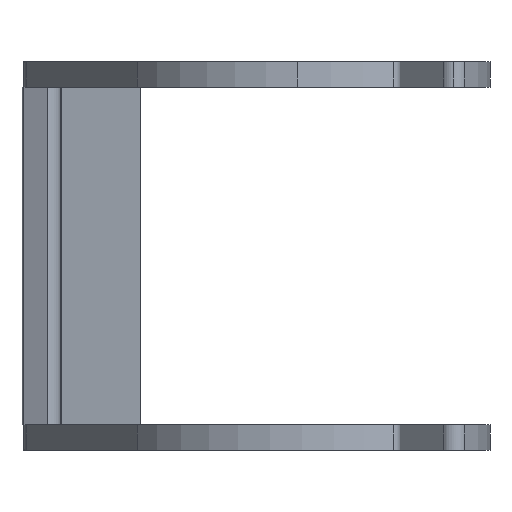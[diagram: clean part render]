
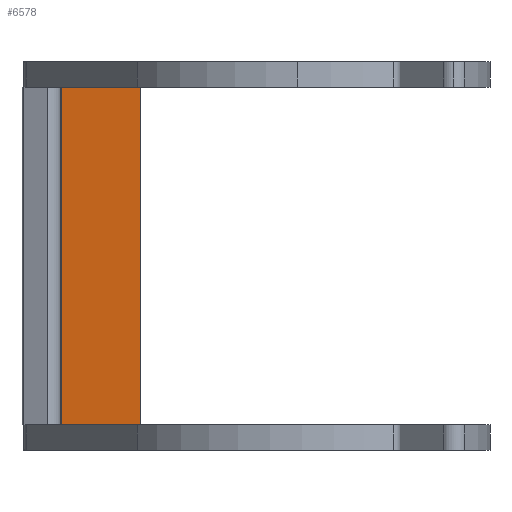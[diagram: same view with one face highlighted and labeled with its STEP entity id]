
A CAD part, left-side view. The second image highlights one B-rep face of the part: STEP entity #6578.
In plain terms, the highlighted planar face has unit normal (-0.99, 0.139, 0).
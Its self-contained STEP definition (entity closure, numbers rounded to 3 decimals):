
#54 = VERTEX_POINT ( 'NONE', #1287 ) ;
#364 = DIRECTION ( 'NONE',  ( 0., 0., 1. ) ) ;
#549 = EDGE_CURVE ( 'NONE', #54, #6128, #5422, .T. ) ;
#742 = VECTOR ( 'NONE', #4125, 1000. ) ;
#855 = LINE ( 'NONE', #2854, #3973 ) ;
#1201 = PLANE ( 'NONE',  #4534 ) ;
#1287 = CARTESIAN_POINT ( 'NONE',  ( 71.635, 48.764, -105. ) ) ;
#1503 = EDGE_CURVE ( 'NONE', #6128, #1899, #855, .T. ) ;
#1522 = CARTESIAN_POINT ( 'NONE',  ( 75.1, 73.39, -105. ) ) ;
#1899 = VERTEX_POINT ( 'NONE', #3642 ) ;
#2450 = EDGE_CURVE ( 'NONE', #54, #2753, #7044, .T. ) ;
#2500 = ORIENTED_EDGE ( 'NONE', *, *, #2450, .T. ) ;
#2740 = CARTESIAN_POINT ( 'NONE',  ( 71.635, 48.764, 0. ) ) ;
#2753 = VERTEX_POINT ( 'NONE', #2740 ) ;
#2854 = CARTESIAN_POINT ( 'NONE',  ( 75.1, 73.39, -105. ) ) ;
#3441 = DIRECTION ( 'NONE',  ( 0., 0., 1. ) ) ;
#3642 = CARTESIAN_POINT ( 'NONE',  ( 75.1, 73.39, 0. ) ) ;
#3686 = DIRECTION ( 'NONE',  ( 0.139, 0.99, 0. ) ) ;
#3824 = CARTESIAN_POINT ( 'NONE',  ( 71.635, 48.764, -105. ) ) ;
#3973 = VECTOR ( 'NONE', #3441, 1000. ) ;
#4125 = DIRECTION ( 'NONE',  ( 0.139, 0.99, 0. ) ) ;
#4534 = AXIS2_PLACEMENT_3D ( 'NONE', #5088, #7701, #6411 ) ;
#4803 = CARTESIAN_POINT ( 'NONE',  ( 75.1, 73.39, -105. ) ) ;
#5088 = CARTESIAN_POINT ( 'NONE',  ( 75.1, 73.39, -105. ) ) ;
#5402 = ORIENTED_EDGE ( 'NONE', *, *, #5950, .T. ) ;
#5422 = LINE ( 'NONE', #1522, #742 ) ;
#5673 = ORIENTED_EDGE ( 'NONE', *, *, #1503, .F. ) ;
#5950 = EDGE_CURVE ( 'NONE', #2753, #1899, #6956, .T. ) ;
#6128 = VERTEX_POINT ( 'NONE', #4803 ) ;
#6360 = CARTESIAN_POINT ( 'NONE',  ( 75.1, 73.39, 0. ) ) ;
#6391 = ORIENTED_EDGE ( 'NONE', *, *, #549, .F. ) ;
#6411 = DIRECTION ( 'NONE',  ( 0.139, 0.99, 0. ) ) ;
#6578 = ADVANCED_FACE ( 'NONE', ( #8299 ), #1201, .F. ) ;
#6956 = LINE ( 'NONE', #6360, #7010 ) ;
#7010 = VECTOR ( 'NONE', #3686, 1000. ) ;
#7044 = LINE ( 'NONE', #3824, #7892 ) ;
#7701 = DIRECTION ( 'NONE',  ( 0.99, -0.139, 0. ) ) ;
#7780 = EDGE_LOOP ( 'NONE', ( #5402, #5673, #6391, #2500 ) ) ;
#7892 = VECTOR ( 'NONE', #364, 1000. ) ;
#8299 = FACE_OUTER_BOUND ( 'NONE', #7780, .T. ) ;
